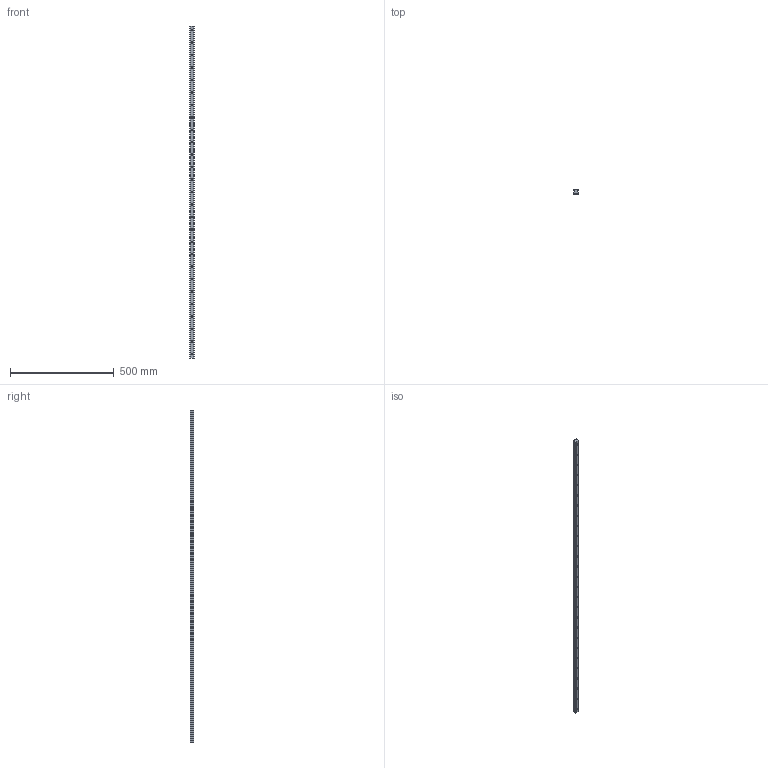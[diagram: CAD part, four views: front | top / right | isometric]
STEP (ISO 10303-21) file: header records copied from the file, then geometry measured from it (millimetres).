
FILE_DESCRIPTION (( 'STEP AP203' ), '1' );
FILE_NAME ('L1016.BL25-1600.step', '2019-06-12T12:08:17', ( '' ), ( '' ), 'SwSTEP 2.0', 'SolidWorks 2017', '' );
FILE_SCHEMA (( 'CONFIG_CONTROL_DESIGN' ));
Length unit declared in the file: millimetre
Products named in the file (1): L1016.BL25-1600
Bounding box: 23 x 19.2 x 1600 mm (x, y, z)
Volume: 589437.9 mm3; surface area: 151809.1 mm2
Topology: 1 solids, 1 shells, 161 faces, 396 edges, 264 vertices
Faces by surface type: cylinder 112, plane 49
Entity records: 5059 total; most frequent: DIRECTION 944, CARTESIAN_POINT 822, ORIENTED_EDGE 792, EDGE_CURVE 396, AXIS2_PLACEMENT_3D 386, VERTEX_POINT 264, EDGE_LOOP 242, CIRCLE 224
